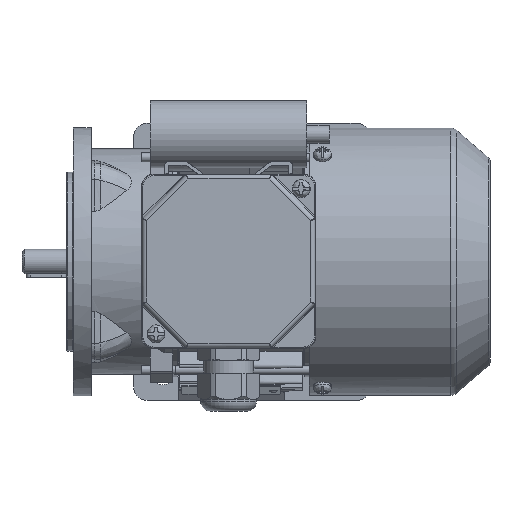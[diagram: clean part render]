
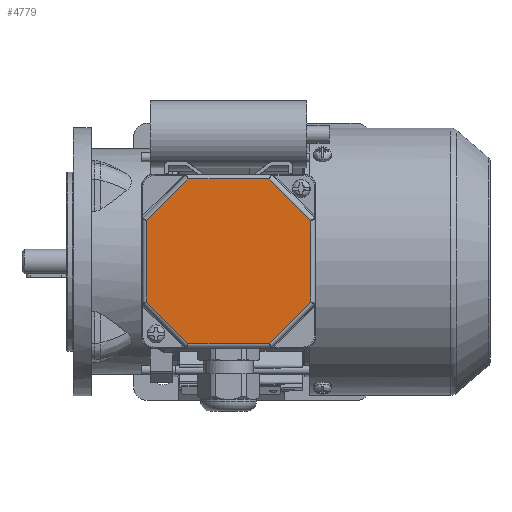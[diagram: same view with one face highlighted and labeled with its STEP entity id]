
A CAD part, top view. The second image highlights one B-rep face of the part: STEP entity #4779.
In plain terms, the highlighted planar face has unit normal (0, 0, 1).
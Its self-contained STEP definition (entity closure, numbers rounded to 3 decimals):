
#4779 = ADVANCED_FACE( '', ( #9986 ), #9987, .T. );
#9986 = FACE_OUTER_BOUND( '', #22092, .T. );
#9987 = PLANE( '', #22093 );
#22092 = EDGE_LOOP( '', ( #37710, #37711, #37712, #37713, #37714, #37715, #37716, #37717 ) );
#22093 = AXIS2_PLACEMENT_3D( '', #37718, #37719, #37720 );
#37710 = ORIENTED_EDGE( '', *, *, #45296, .T. );
#37711 = ORIENTED_EDGE( '', *, *, #49714, .T. );
#37712 = ORIENTED_EDGE( '', *, *, #47403, .T. );
#37713 = ORIENTED_EDGE( '', *, *, #47508, .T. );
#37714 = ORIENTED_EDGE( '', *, *, #47524, .T. );
#37715 = ORIENTED_EDGE( '', *, *, #45489, .T. );
#37716 = ORIENTED_EDGE( '', *, *, #46304, .T. );
#37717 = ORIENTED_EDGE( '', *, *, #45251, .T. );
#37718 = CARTESIAN_POINT( '', ( -39., 39., 12. ) );
#37719 = DIRECTION( '', ( 0., 0., 1. ) );
#37720 = DIRECTION( '', ( 1., 0., 0. ) );
#45251 = EDGE_CURVE( '', #53456, #52909, #53457, .T. );
#45296 = EDGE_CURVE( '', #52909, #53533, #53535, .F. );
#45489 = EDGE_CURVE( '', #53868, #53869, #53870, .T. );
#46304 = EDGE_CURVE( '', #53869, #53456, #55239, .F. );
#47403 = EDGE_CURVE( '', #57057, #57058, #57059, .F. );
#47508 = EDGE_CURVE( '', #57058, #55101, #57227, .T. );
#47524 = EDGE_CURVE( '', #55101, #53868, #57246, .F. );
#49714 = EDGE_CURVE( '', #53533, #57057, #60307, .T. );
#52909 = VERTEX_POINT( '', #63516 );
#53456 = VERTEX_POINT( '', #64735 );
#53457 = LINE( '', #64736, #64737 );
#53533 = VERTEX_POINT( '', #64926 );
#53535 = LINE( '', #64928, #64929 );
#53868 = VERTEX_POINT( '', #65690 );
#53869 = VERTEX_POINT( '', #65691 );
#53870 = LINE( '', #65692, #65693 );
#55101 = VERTEX_POINT( '', #68636 );
#55239 = LINE( '', #68970, #68971 );
#57057 = VERTEX_POINT( '', #72148 );
#57058 = VERTEX_POINT( '', #72149 );
#57059 = LINE( '', #72150, #72151 );
#57227 = LINE( '', #72527, #72528 );
#57246 = LINE( '', #72556, #72557 );
#60307 = LINE( '', #79656, #79657 );
#63516 = CARTESIAN_POINT( '', ( 36.825, -18.255, 12. ) );
#64735 = CARTESIAN_POINT( '', ( 18.255, -36.825, 12. ) );
#64736 = CARTESIAN_POINT( '', ( 37.401, -17.679, 12. ) );
#64737 = VECTOR( '', #84174, 1000. );
#64926 = CARTESIAN_POINT( '', ( 36.825, 18.255, 12. ) );
#64928 = CARTESIAN_POINT( '', ( 36.825, 19.069, 12. ) );
#64929 = VECTOR( '', #84242, 1000. );
#65690 = CARTESIAN_POINT( '', ( -36.825, -18.255, 12. ) );
#65691 = CARTESIAN_POINT( '', ( -18.255, -36.825, 12. ) );
#65692 = CARTESIAN_POINT( '', ( -17.679, -37.401, 12. ) );
#65693 = VECTOR( '', #84474, 1000. );
#68636 = CARTESIAN_POINT( '', ( -36.825, 18.255, 12. ) );
#68970 = CARTESIAN_POINT( '', ( 19.069, -36.825, 12. ) );
#68971 = VECTOR( '', #85413, 1000. );
#72148 = CARTESIAN_POINT( '', ( 18.255, 36.825, 12. ) );
#72149 = CARTESIAN_POINT( '', ( -18.255, 36.825, 12. ) );
#72150 = CARTESIAN_POINT( '', ( -19.069, 36.825, 12. ) );
#72151 = VECTOR( '', #86940, 1000. );
#72527 = CARTESIAN_POINT( '', ( -37.401, 17.679, 12. ) );
#72528 = VECTOR( '', #87045, 1000. );
#72556 = CARTESIAN_POINT( '', ( -36.825, -19.069, 12. ) );
#72557 = VECTOR( '', #87058, 1000. );
#79656 = CARTESIAN_POINT( '', ( 17.679, 37.401, 12. ) );
#79657 = VECTOR( '', #89479, 1000. );
#84174 = DIRECTION( '', ( 0.707, 0.707, 0. ) );
#84242 = DIRECTION( '', ( 0., -1., 0. ) );
#84474 = DIRECTION( '', ( 0.707, -0.707, 0. ) );
#85413 = DIRECTION( '', ( -1., 0., 0. ) );
#86940 = DIRECTION( '', ( 1., 0., 0. ) );
#87045 = DIRECTION( '', ( -0.707, -0.707, 0. ) );
#87058 = DIRECTION( '', ( 0., 1., 0. ) );
#89479 = DIRECTION( '', ( -0.707, 0.707, 0. ) );
